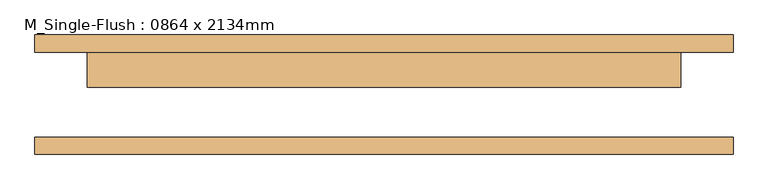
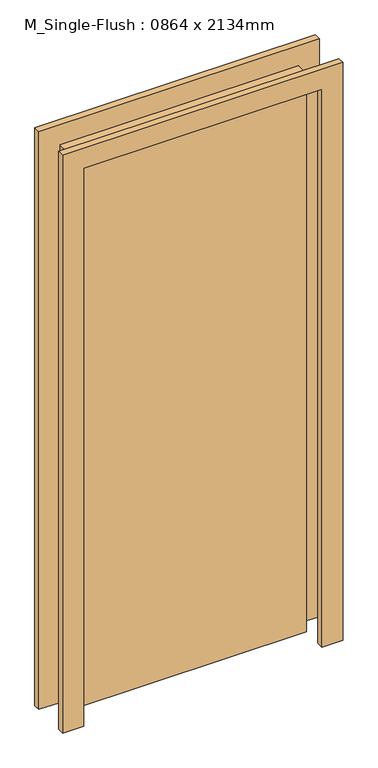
"""IFC4 building model written with IfcOpenShell, lengths in millimetres: door geometry, M_Single-Flush : 0864 x 2134mm."""

from ifc_helpers import new_model, si_unit, frame, origin, origin_with_axes, place, context, project, spatial, polyline, outline, extrude, source, transform, mapped, element, save


def m_single_flush_0864_x_2134mm_f97c17fc(model_context):
    return source(origin(), model_context, "Body", "SweptSolid", [
        extrude(outline(polyline([(2210.0, -508.0), (0.0, -508.0), (0.0, -432.0), (2134.0, -432.0), (2134.0, 432.0), (0.0, 432.0), (0.0, 508.0), (2210.0, 508.0), (2210.0, -508.0)])), frame((0.0, 62.0, 0.0), z_axis=(0.0, 1.0, 0.0), x_axis=(0.0, 0.0, 1.0)), (0.0, 0.0, 1.0), 25.0),
        extrude(outline(polyline([(2210.0, 508.0), (2210.0, -508.0), (0.0, -508.0), (0.0, -432.0), (2134.0, -432.0), (2134.0, 432.0), (0.0, 432.0), (0.0, 508.0), (2210.0, 508.0)])), frame((0.0, -87.0, 0.0), z_axis=(0.0, 1.0, 0.0), x_axis=(0.0, 0.0, 1.0)), (0.0, 0.0, 1.0), 25.0),
        extrude(outline(polyline([(432.0, 11.0), (-432.0, 11.0), (-432.0, 62.0), (432.0, 62.0), (432.0, 11.0)])), origin_with_axes(), (0.0, 0.0, 1.0), 2134.0),
    ])


if __name__ == "__main__":
    model = new_model("IFC4")
    model_context = context("Model", 3, world=origin())
    ifc_project = project(units=[si_unit("LENGTHUNIT", "METRE", prefix="MILLI")], contexts=[model_context])
    site = spatial("IfcSite", under=ifc_project)
    building = spatial("IfcBuilding", under=site)
    placement = place(None, origin())
    m_single_flush_0864_x_2134mm_shape = m_single_flush_0864_x_2134mm_f97c17fc(model_context)
    element("IfcDoor", 1, ObjectType="M_Single-Flush : 0864 x 2134mm", at=placement, inside=building, context=model_context, shape_type="MappedRepresentation", body=[
        mapped(m_single_flush_0864_x_2134mm_shape, transform((0.0, 0.0, 0.0), x_axis=(1.0, 0.0, 0.0), y_axis=(0.0, 1.0, 0.0), z_axis=(0.0, 0.0, 1.0))),
    ])
    save(model, "model.ifc")
